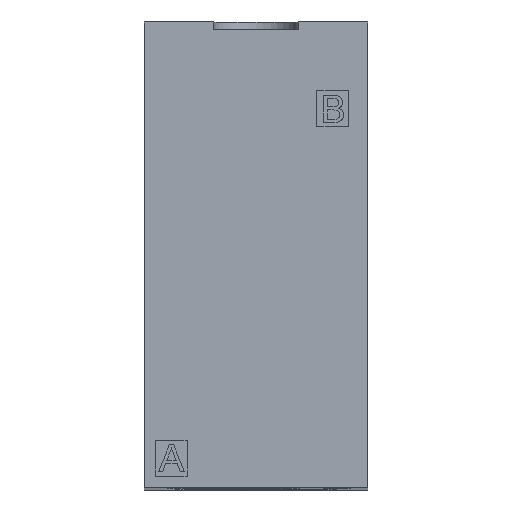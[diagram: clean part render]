
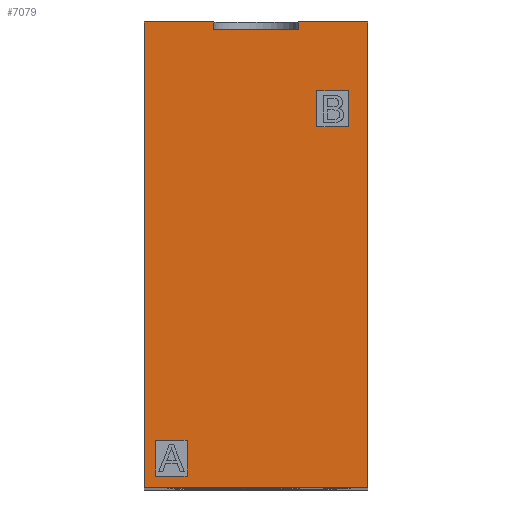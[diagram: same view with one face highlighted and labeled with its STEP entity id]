
A CAD part, top view. The second image highlights one B-rep face of the part: STEP entity #7079.
In plain terms, the highlighted planar face has unit normal (0, 0, 1).
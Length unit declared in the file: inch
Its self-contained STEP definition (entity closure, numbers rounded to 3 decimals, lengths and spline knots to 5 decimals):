
#117 = VERTEX_POINT ( 'NONE', #1441 ) ;
#582 = CARTESIAN_POINT ( 'NONE',  ( -0.49213, 0., 2.77559 ) ) ;
#610 = ORIENTED_EDGE ( 'NONE', *, *, #18629, .F. ) ;
#631 = VERTEX_POINT ( 'NONE', #17185 ) ;
#687 = DIRECTION ( 'NONE',  ( 1., 0., 0. ) ) ;
#705 = EDGE_CURVE ( 'NONE', #19266, #3616, #8958, .T. ) ;
#1135 = CARTESIAN_POINT ( 'NONE',  ( 0.40551, 1.58661, 2.77559 ) ) ;
#1194 = DIRECTION ( 'NONE',  ( 0., -1., 0. ) ) ;
#1217 = LINE ( 'NONE', #10390, #6330 ) ;
#1358 = VERTEX_POINT ( 'NONE', #17885 ) ;
#1362 = CARTESIAN_POINT ( 'NONE',  ( -0.49213, 0.20866, 2.77559 ) ) ;
#1387 = LINE ( 'NONE', #12091, #20073 ) ;
#1441 = CARTESIAN_POINT ( 'NONE',  ( 0.26772, 1.58661, 2.77559 ) ) ;
#1543 = CARTESIAN_POINT ( 'NONE',  ( 0.18701, 2.04724, 2.77559 ) ) ;
#1612 = ORIENTED_EDGE ( 'NONE', *, *, #11038, .F. ) ;
#1997 = PLANE ( 'NONE',  #3128 ) ;
#2086 = EDGE_CURVE ( 'NONE', #12919, #22344, #2952, .T. ) ;
#2783 = DIRECTION ( 'NONE',  ( 0., -1., 0. ) ) ;
#2816 = VERTEX_POINT ( 'NONE', #12424 ) ;
#2952 = LINE ( 'NONE', #22417, #4659 ) ;
#2997 = LINE ( 'NONE', #8164, #21125 ) ;
#3019 = VECTOR ( 'NONE', #13454, 39.37008 ) ;
#3098 = VERTEX_POINT ( 'NONE', #11740 ) ;
#3128 = AXIS2_PLACEMENT_3D ( 'NONE', #20227, #18297, #5467 ) ;
#3404 = EDGE_CURVE ( 'NONE', #117, #17534, #14730, .T. ) ;
#3498 = LINE ( 'NONE', #15562, #12031 ) ;
#3522 = VERTEX_POINT ( 'NONE', #4733 ) ;
#3616 = VERTEX_POINT ( 'NONE', #1543 ) ;
#3690 = CARTESIAN_POINT ( 'NONE',  ( 0.18701, 2.01575, 2.77559 ) ) ;
#4247 = EDGE_CURVE ( 'NONE', #20092, #19266, #2997, .T. ) ;
#4534 = VERTEX_POINT ( 'NONE', #16277 ) ;
#4544 = DIRECTION ( 'NONE',  ( 0., 1., 0. ) ) ;
#4659 = VECTOR ( 'NONE', #17285, 39.37008 ) ;
#4694 = DIRECTION ( 'NONE',  ( 0., -1., 0. ) ) ;
#4733 = CARTESIAN_POINT ( 'NONE',  ( 0.49213, 2.04724, 2.77559 ) ) ;
#4962 = ORIENTED_EDGE ( 'NONE', *, *, #9183, .F. ) ;
#5184 = CARTESIAN_POINT ( 'NONE',  ( -0.49213, 0., 2.77559 ) ) ;
#5391 = EDGE_LOOP ( 'NONE', ( #13686, #9456, #8936, #4962 ) ) ;
#5467 = DIRECTION ( 'NONE',  ( -1., 0., 0. ) ) ;
#5632 = VERTEX_POINT ( 'NONE', #21241 ) ;
#6330 = VECTOR ( 'NONE', #12086, 39.37008 ) ;
#6548 = ORIENTED_EDGE ( 'NONE', *, *, #3404, .F. ) ;
#7079 = ADVANCED_FACE ( 'NONE', ( #19080, #22682, #17966 ), #1997, .F. ) ;
#7906 = ORIENTED_EDGE ( 'NONE', *, *, #13390, .F. ) ;
#7924 = CARTESIAN_POINT ( 'NONE',  ( -0.49213, 1.58661, 2.77559 ) ) ;
#8164 = CARTESIAN_POINT ( 'NONE',  ( -0.49213, 2.01575, 2.77559 ) ) ;
#8261 = EDGE_CURVE ( 'NONE', #16435, #1358, #18840, .T. ) ;
#8310 = CARTESIAN_POINT ( 'NONE',  ( -0.49213, 0.05118, 2.77559 ) ) ;
#8485 = CARTESIAN_POINT ( 'NONE',  ( -0.30315, 0.20866, 2.77559 ) ) ;
#8748 = DIRECTION ( 'NONE',  ( -1., 0., 0. ) ) ;
#8936 = ORIENTED_EDGE ( 'NONE', *, *, #8261, .F. ) ;
#8958 = LINE ( 'NONE', #17646, #20870 ) ;
#9183 = EDGE_CURVE ( 'NONE', #22344, #16435, #16714, .T. ) ;
#9456 = ORIENTED_EDGE ( 'NONE', *, *, #11300, .F. ) ;
#10390 = CARTESIAN_POINT ( 'NONE',  ( -0.49213, 1.74409, 2.77559 ) ) ;
#10490 = DIRECTION ( 'NONE',  ( 0., 1., 0. ) ) ;
#10520 = CARTESIAN_POINT ( 'NONE',  ( -0.49213, 2.04724, 2.77559 ) ) ;
#10608 = LINE ( 'NONE', #582, #12347 ) ;
#10610 = DIRECTION ( 'NONE',  ( 1., 0., 0. ) ) ;
#10900 = EDGE_CURVE ( 'NONE', #4534, #117, #3498, .T. ) ;
#11038 = EDGE_CURVE ( 'NONE', #631, #4534, #1217, .T. ) ;
#11105 = LINE ( 'NONE', #18519, #17366 ) ;
#11300 = EDGE_CURVE ( 'NONE', #1358, #12919, #23207, .T. ) ;
#11593 = VECTOR ( 'NONE', #687, 39.37008 ) ;
#11682 = ORIENTED_EDGE ( 'NONE', *, *, #15019, .F. ) ;
#11710 = LINE ( 'NONE', #10520, #21878 ) ;
#11740 = CARTESIAN_POINT ( 'NONE',  ( -0.18701, 2.04724, 2.77559 ) ) ;
#11777 = VECTOR ( 'NONE', #10610, 39.37008 ) ;
#11789 = ORIENTED_EDGE ( 'NONE', *, *, #15312, .T. ) ;
#11871 = EDGE_LOOP ( 'NONE', ( #16806, #1612, #11682, #6548 ) ) ;
#12031 = VECTOR ( 'NONE', #4694, 39.37008 ) ;
#12086 = DIRECTION ( 'NONE',  ( -1., 0., 0. ) ) ;
#12091 = CARTESIAN_POINT ( 'NONE',  ( 0.49213, 1.02362, 2.77559 ) ) ;
#12249 = EDGE_LOOP ( 'NONE', ( #610, #17206, #16921, #12945, #7906, #11789, #16169, #16125 ) ) ;
#12347 = VECTOR ( 'NONE', #4544, 39.37008 ) ;
#12424 = CARTESIAN_POINT ( 'NONE',  ( 0.49213, 0., 2.77559 ) ) ;
#12461 = CARTESIAN_POINT ( 'NONE',  ( -0.49213, 2.04724, 2.77559 ) ) ;
#12919 = VERTEX_POINT ( 'NONE', #20225 ) ;
#12945 = ORIENTED_EDGE ( 'NONE', *, *, #16199, .T. ) ;
#12992 = EDGE_CURVE ( 'NONE', #3098, #19188, #11105, .T. ) ;
#13141 = CARTESIAN_POINT ( 'NONE',  ( -0.44094, 0.20866, 2.77559 ) ) ;
#13390 = EDGE_CURVE ( 'NONE', #3522, #2816, #1387, .T. ) ;
#13405 = DIRECTION ( 'NONE',  ( 1., 0., 0. ) ) ;
#13454 = DIRECTION ( 'NONE',  ( 0., -1., 0. ) ) ;
#13686 = ORIENTED_EDGE ( 'NONE', *, *, #2086, .F. ) ;
#14730 = LINE ( 'NONE', #7924, #11593 ) ;
#14880 = VECTOR ( 'NONE', #2783, 39.37008 ) ;
#14991 = EDGE_CURVE ( 'NONE', #5632, #19188, #10608, .T. ) ;
#15019 = EDGE_CURVE ( 'NONE', #17534, #631, #19120, .T. ) ;
#15312 = EDGE_CURVE ( 'NONE', #3522, #3616, #11710, .T. ) ;
#15562 = CARTESIAN_POINT ( 'NONE',  ( 0.26772, 0., 2.77559 ) ) ;
#15869 = VECTOR ( 'NONE', #8748, 39.37008 ) ;
#16125 = ORIENTED_EDGE ( 'NONE', *, *, #4247, .F. ) ;
#16150 = CARTESIAN_POINT ( 'NONE',  ( -0.18701, 2.01575, 2.77559 ) ) ;
#16169 = ORIENTED_EDGE ( 'NONE', *, *, #705, .F. ) ;
#16199 = EDGE_CURVE ( 'NONE', #5632, #2816, #22203, .T. ) ;
#16277 = CARTESIAN_POINT ( 'NONE',  ( 0.26772, 1.74409, 2.77559 ) ) ;
#16435 = VERTEX_POINT ( 'NONE', #13141 ) ;
#16714 = LINE ( 'NONE', #1362, #15869 ) ;
#16806 = ORIENTED_EDGE ( 'NONE', *, *, #10900, .F. ) ;
#16921 = ORIENTED_EDGE ( 'NONE', *, *, #14991, .F. ) ;
#17185 = CARTESIAN_POINT ( 'NONE',  ( 0.40551, 1.74409, 2.77559 ) ) ;
#17206 = ORIENTED_EDGE ( 'NONE', *, *, #12992, .T. ) ;
#17285 = DIRECTION ( 'NONE',  ( 0., 1., 0. ) ) ;
#17337 = CARTESIAN_POINT ( 'NONE',  ( 0.40551, 0., 2.77559 ) ) ;
#17366 = VECTOR ( 'NONE', #20146, 39.37008 ) ;
#17404 = DIRECTION ( 'NONE',  ( 0., 1., 0. ) ) ;
#17442 = VECTOR ( 'NONE', #17404, 39.37008 ) ;
#17461 = DIRECTION ( 'NONE',  ( 1., 0., 0. ) ) ;
#17534 = VERTEX_POINT ( 'NONE', #1135 ) ;
#17646 = CARTESIAN_POINT ( 'NONE',  ( 0.18701, 0., 2.77559 ) ) ;
#17885 = CARTESIAN_POINT ( 'NONE',  ( -0.44094, 0.05118, 2.77559 ) ) ;
#17966 = FACE_BOUND ( 'NONE', #5391, .T. ) ;
#18297 = DIRECTION ( 'NONE',  ( 0., 0., -1. ) ) ;
#18519 = CARTESIAN_POINT ( 'NONE',  ( -0.49213, 2.04724, 2.77559 ) ) ;
#18629 = EDGE_CURVE ( 'NONE', #3098, #20092, #19172, .T. ) ;
#18840 = LINE ( 'NONE', #19119, #14880 ) ;
#19080 = FACE_OUTER_BOUND ( 'NONE', #12249, .T. ) ;
#19119 = CARTESIAN_POINT ( 'NONE',  ( -0.44094, 0., 2.77559 ) ) ;
#19120 = LINE ( 'NONE', #17337, #17442 ) ;
#19172 = LINE ( 'NONE', #22124, #3019 ) ;
#19188 = VERTEX_POINT ( 'NONE', #12461 ) ;
#19266 = VERTEX_POINT ( 'NONE', #3690 ) ;
#19302 = VECTOR ( 'NONE', #17461, 39.37008 ) ;
#20073 = VECTOR ( 'NONE', #1194, 39.37008 ) ;
#20092 = VERTEX_POINT ( 'NONE', #16150 ) ;
#20146 = DIRECTION ( 'NONE',  ( -1., 0., 0. ) ) ;
#20225 = CARTESIAN_POINT ( 'NONE',  ( -0.30315, 0.05118, 2.77559 ) ) ;
#20227 = CARTESIAN_POINT ( 'NONE',  ( -0.49213, 0., 2.77559 ) ) ;
#20870 = VECTOR ( 'NONE', #10490, 39.37008 ) ;
#21125 = VECTOR ( 'NONE', #13405, 39.37008 ) ;
#21241 = CARTESIAN_POINT ( 'NONE',  ( -0.49213, 0., 2.77559 ) ) ;
#21878 = VECTOR ( 'NONE', #22884, 39.37008 ) ;
#22124 = CARTESIAN_POINT ( 'NONE',  ( -0.18701, 0., 2.77559 ) ) ;
#22203 = LINE ( 'NONE', #5184, #11777 ) ;
#22344 = VERTEX_POINT ( 'NONE', #8485 ) ;
#22417 = CARTESIAN_POINT ( 'NONE',  ( -0.30315, 0., 2.77559 ) ) ;
#22682 = FACE_BOUND ( 'NONE', #11871, .T. ) ;
#22884 = DIRECTION ( 'NONE',  ( -1., 0., 0. ) ) ;
#23207 = LINE ( 'NONE', #8310, #19302 ) ;
